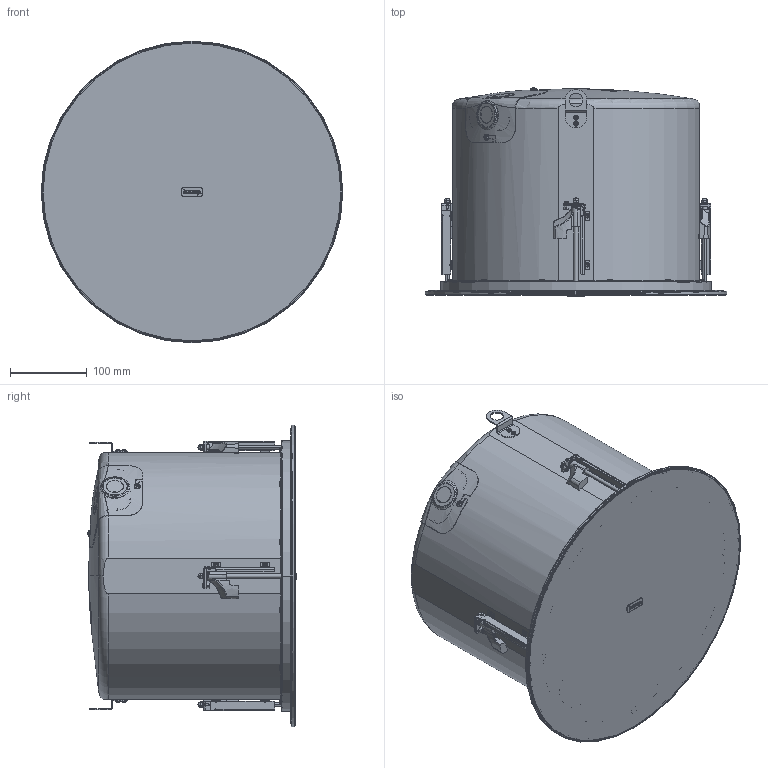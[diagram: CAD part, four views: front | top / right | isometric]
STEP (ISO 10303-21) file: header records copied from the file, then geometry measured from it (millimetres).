
FILE_DESCRIPTION (( 'STEP AP214' ), '1' );
FILE_NAME ('851.0522_DX-IC10SUB_defeatured_WEB.90A.step', '2022-08-15T20:05:58', ( '' ), ( '' ), 'SwSTEP 2.0', 'SolidWorks 2021', '' );
FILE_SCHEMA (( 'AUTOMOTIVE_DESIGN' ));
Length unit declared in the file: millimetre
Products named in the file (1): 851.0522_DX-IC10SUB_defeatured_WEB.90A
Bounding box: 393.93 x 271.94 x 393.93 mm (x, y, z)
Volume: 21288565.5 mm3; surface area: 848725 mm2
Topology: 10 solids, 26 shells, 3656 faces, 9288 edges, 5841 vertices
Faces by surface type: plane 1313, cylinder 1082, cone 603, bspline 435, torus 150, sphere 73
Entity records: 205153 total; most frequent: CARTESIAN_POINT 82119, ORIENTED_EDGE 18432, DIRECTION 16191, EDGE_CURVE 9216, AXIS2_PLACEMENT_3D 6238, VERTEX_POINT 5801, EDGE_LOOP 3897, LINE 3715
